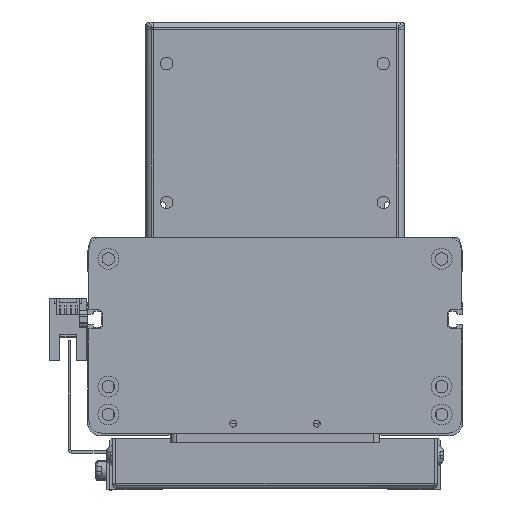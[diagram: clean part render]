
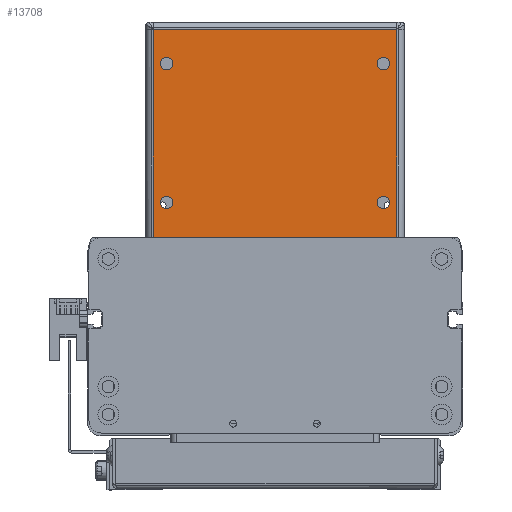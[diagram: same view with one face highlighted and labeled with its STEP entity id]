
A CAD part, front view. The second image highlights one B-rep face of the part: STEP entity #13708.
In plain terms, the highlighted planar face has unit normal (0, -1, 0) as drawn and (0, 0, 1) by its records, which use the part's own axes.
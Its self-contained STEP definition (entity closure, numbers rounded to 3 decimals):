
#160 = LINE ( 'NONE', #15741, #22237 ) ;
#365 = DIRECTION ( 'NONE',  ( 1., 0., 0. ) ) ;
#381 = CIRCLE ( 'NONE', #22727, 2.25 ) ;
#929 = CARTESIAN_POINT ( 'NONE',  ( -40.16, -106.403, 267.5 ) ) ;
#1912 = CARTESIAN_POINT ( 'NONE',  ( -33.146, -44.14, 267.5 ) ) ;
#1970 = EDGE_CURVE ( 'NONE', #6203, #6177, #25436, .T. ) ;
#1981 = DIRECTION ( 'NONE',  ( 0., 0., 1. ) ) ;
#2047 = DIRECTION ( 'NONE',  ( 0., 0., -1. ) ) ;
#3147 = ORIENTED_EDGE ( 'NONE', *, *, #25951, .T. ) ;
#3174 = DIRECTION ( 'NONE',  ( 0., 0., -1. ) ) ;
#3595 = VERTEX_POINT ( 'NONE', #18838 ) ;
#4153 = CIRCLE ( 'NONE', #20623, 2.25 ) ;
#4171 = VECTOR ( 'NONE', #10850, 1000. ) ;
#4380 = EDGE_CURVE ( 'NONE', #10551, #25337, #381, .T. ) ;
#4528 = DIRECTION ( 'NONE',  ( 1., 0., 0. ) ) ;
#4771 = PLANE ( 'NONE',  #16886 ) ;
#5036 = CARTESIAN_POINT ( 'NONE',  ( -8.856, -60.29, 267.5 ) ) ;
#5131 = DIRECTION ( 'NONE',  ( 1., 0., 0. ) ) ;
#5216 = VERTEX_POINT ( 'NONE', #22351 ) ;
#5468 = VERTEX_POINT ( 'NONE', #15250 ) ;
#6177 = VERTEX_POINT ( 'NONE', #9266 ) ;
#6203 = VERTEX_POINT ( 'NONE', #35070 ) ;
#6610 = CARTESIAN_POINT ( 'NONE',  ( -35.396, -44.14, 267.5 ) ) ;
#7257 = ORIENTED_EDGE ( 'NONE', *, *, #26883, .T. ) ;
#7289 = DIRECTION ( 'NONE',  ( 0., 0., -1. ) ) ;
#8229 = AXIS2_PLACEMENT_3D ( 'NONE', #26835, #35080, #15393 ) ;
#8231 = CIRCLE ( 'NONE', #8229, 2.25 ) ;
#9266 = CARTESIAN_POINT ( 'NONE',  ( 44.854, -44.14, 267.5 ) ) ;
#10531 = EDGE_LOOP ( 'NONE', ( #33474, #27345 ) ) ;
#10551 = VERTEX_POINT ( 'NONE', #1912 ) ;
#10562 = DIRECTION ( 'NONE',  ( 0., 0., -1. ) ) ;
#10656 = DIRECTION ( 'NONE',  ( 0., 0., -1. ) ) ;
#10850 = DIRECTION ( 'NONE',  ( 1., 0., 0. ) ) ;
#11133 = EDGE_LOOP ( 'NONE', ( #7257, #32943, #14856, #27580 ) ) ;
#11515 = LINE ( 'NONE', #26513, #29059 ) ;
#12281 = EDGE_CURVE ( 'NONE', #3595, #5468, #22773, .T. ) ;
#12320 = AXIS2_PLACEMENT_3D ( 'NONE', #27868, #2047, #37102 ) ;
#12908 = DIRECTION ( 'NONE',  ( 0., 0., -1. ) ) ;
#13058 = DIRECTION ( 'NONE',  ( 1., 0., 0. ) ) ;
#13229 = DIRECTION ( 'NONE',  ( 1., 0., 0. ) ) ;
#13708 = ADVANCED_FACE ( 'NONE', ( #16022, #24572, #13785, #22805, #15110 ), #4771, .T. ) ;
#13784 = EDGE_CURVE ( 'NONE', #33665, #30075, #28637, .T. ) ;
#13785 = FACE_BOUND ( 'NONE', #35999, .T. ) ;
#14468 = CARTESIAN_POINT ( 'NONE',  ( -37.646, -94.14, 267.5 ) ) ;
#14507 = AXIS2_PLACEMENT_3D ( 'NONE', #22064, #22342, #13229 ) ;
#14856 = ORIENTED_EDGE ( 'NONE', *, *, #36985, .T. ) ;
#15074 = VECTOR ( 'NONE', #16180, 1000. ) ;
#15110 = FACE_BOUND ( 'NONE', #10531, .T. ) ;
#15250 = CARTESIAN_POINT ( 'NONE',  ( -40.16, -31.64, 267.5 ) ) ;
#15393 = DIRECTION ( 'NONE',  ( 1., 0., 0. ) ) ;
#15741 = CARTESIAN_POINT ( 'NONE',  ( 47.367, -60.29, 267.5 ) ) ;
#16022 = FACE_OUTER_BOUND ( 'NONE', #11133, .T. ) ;
#16180 = DIRECTION ( 'NONE',  ( -1., 0., 0. ) ) ;
#16886 = AXIS2_PLACEMENT_3D ( 'NONE', #5036, #1981, #27927 ) ;
#16907 = AXIS2_PLACEMENT_3D ( 'NONE', #36284, #7289, #13058 ) ;
#17037 = CARTESIAN_POINT ( 'NONE',  ( 44.854, -94.14, 267.5 ) ) ;
#17700 = ORIENTED_EDGE ( 'NONE', *, *, #4380, .T. ) ;
#17838 = EDGE_CURVE ( 'NONE', #25337, #10551, #36069, .T. ) ;
#18018 = CARTESIAN_POINT ( 'NONE',  ( -33.146, -94.14, 267.5 ) ) ;
#18035 = ORIENTED_EDGE ( 'NONE', *, *, #23777, .T. ) ;
#18700 = CARTESIAN_POINT ( 'NONE',  ( -35.396, -94.14, 267.5 ) ) ;
#18838 = CARTESIAN_POINT ( 'NONE',  ( 47.367, -31.64, 267.5 ) ) ;
#19273 = VERTEX_POINT ( 'NONE', #24057 ) ;
#20134 = CARTESIAN_POINT ( 'NONE',  ( -37.646, -44.14, 267.5 ) ) ;
#20623 = AXIS2_PLACEMENT_3D ( 'NONE', #33300, #10562, #4528 ) ;
#21292 = DIRECTION ( 'NONE',  ( 0., 1., 0. ) ) ;
#22064 = CARTESIAN_POINT ( 'NONE',  ( 42.604, -44.14, 267.5 ) ) ;
#22237 = VECTOR ( 'NONE', #21292, 1000. ) ;
#22249 = CARTESIAN_POINT ( 'NONE',  ( -8.856, -31.64, 267.5 ) ) ;
#22342 = DIRECTION ( 'NONE',  ( 0., 0., -1. ) ) ;
#22351 = CARTESIAN_POINT ( 'NONE',  ( 40.354, -94.14, 267.5 ) ) ;
#22605 = CARTESIAN_POINT ( 'NONE',  ( -8.856, -106.403, 267.5 ) ) ;
#22727 = AXIS2_PLACEMENT_3D ( 'NONE', #6610, #3174, #365 ) ;
#22773 = LINE ( 'NONE', #22249, #15074 ) ;
#22805 = FACE_BOUND ( 'NONE', #25831, .T. ) ;
#23777 = EDGE_CURVE ( 'NONE', #29080, #5216, #34516, .T. ) ;
#24057 = CARTESIAN_POINT ( 'NONE',  ( 47.367, -106.403, 267.5 ) ) ;
#24313 = VERTEX_POINT ( 'NONE', #929 ) ;
#24572 = FACE_BOUND ( 'NONE', #30549, .T. ) ;
#25148 = CARTESIAN_POINT ( 'NONE',  ( 42.604, -94.14, 267.5 ) ) ;
#25337 = VERTEX_POINT ( 'NONE', #20134 ) ;
#25436 = CIRCLE ( 'NONE', #14507, 2.25 ) ;
#25831 = EDGE_LOOP ( 'NONE', ( #18035, #3147 ) ) ;
#25951 = EDGE_CURVE ( 'NONE', #5216, #29080, #27950, .T. ) ;
#26513 = CARTESIAN_POINT ( 'NONE',  ( -40.16, -60.29, 267.5 ) ) ;
#26835 = CARTESIAN_POINT ( 'NONE',  ( -35.396, -94.14, 267.5 ) ) ;
#26883 = EDGE_CURVE ( 'NONE', #19273, #3595, #160, .T. ) ;
#26922 = EDGE_CURVE ( 'NONE', #6177, #6203, #4153, .T. ) ;
#27345 = ORIENTED_EDGE ( 'NONE', *, *, #32507, .T. ) ;
#27580 = ORIENTED_EDGE ( 'NONE', *, *, #31490, .T. ) ;
#27868 = CARTESIAN_POINT ( 'NONE',  ( -35.396, -44.14, 267.5 ) ) ;
#27927 = DIRECTION ( 'NONE',  ( 1., 0., 0. ) ) ;
#27950 = CIRCLE ( 'NONE', #31142, 2.25 ) ;
#28637 = CIRCLE ( 'NONE', #30361, 2.25 ) ;
#29059 = VECTOR ( 'NONE', #29385, 1000. ) ;
#29080 = VERTEX_POINT ( 'NONE', #17037 ) ;
#29385 = DIRECTION ( 'NONE',  ( 0., -1., 0. ) ) ;
#29388 = LINE ( 'NONE', #22605, #4171 ) ;
#30075 = VERTEX_POINT ( 'NONE', #14468 ) ;
#30361 = AXIS2_PLACEMENT_3D ( 'NONE', #18700, #12908, #32979 ) ;
#30549 = EDGE_LOOP ( 'NONE', ( #17700, #33068 ) ) ;
#31142 = AXIS2_PLACEMENT_3D ( 'NONE', #25148, #10656, #5131 ) ;
#31490 = EDGE_CURVE ( 'NONE', #24313, #19273, #29388, .T. ) ;
#32433 = ORIENTED_EDGE ( 'NONE', *, *, #1970, .T. ) ;
#32507 = EDGE_CURVE ( 'NONE', #30075, #33665, #8231, .T. ) ;
#32943 = ORIENTED_EDGE ( 'NONE', *, *, #12281, .T. ) ;
#32979 = DIRECTION ( 'NONE',  ( 1., 0., 0. ) ) ;
#33068 = ORIENTED_EDGE ( 'NONE', *, *, #17838, .T. ) ;
#33300 = CARTESIAN_POINT ( 'NONE',  ( 42.604, -44.14, 267.5 ) ) ;
#33380 = ORIENTED_EDGE ( 'NONE', *, *, #26922, .T. ) ;
#33474 = ORIENTED_EDGE ( 'NONE', *, *, #13784, .T. ) ;
#33665 = VERTEX_POINT ( 'NONE', #18018 ) ;
#34516 = CIRCLE ( 'NONE', #16907, 2.25 ) ;
#35070 = CARTESIAN_POINT ( 'NONE',  ( 40.354, -44.14, 267.5 ) ) ;
#35080 = DIRECTION ( 'NONE',  ( 0., 0., -1. ) ) ;
#35999 = EDGE_LOOP ( 'NONE', ( #33380, #32433 ) ) ;
#36069 = CIRCLE ( 'NONE', #12320, 2.25 ) ;
#36284 = CARTESIAN_POINT ( 'NONE',  ( 42.604, -94.14, 267.5 ) ) ;
#36985 = EDGE_CURVE ( 'NONE', #5468, #24313, #11515, .T. ) ;
#37102 = DIRECTION ( 'NONE',  ( 1., 0., 0. ) ) ;
